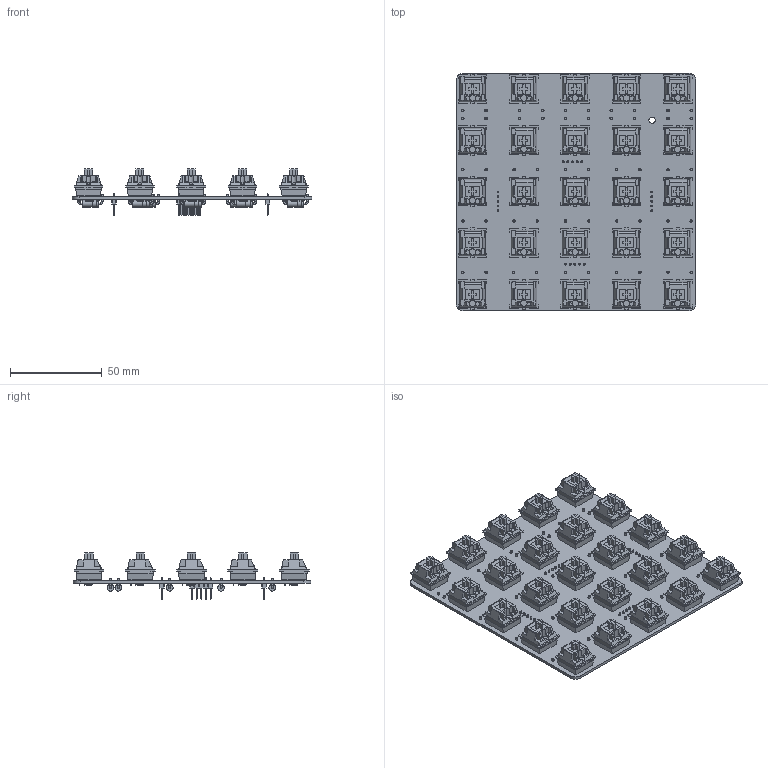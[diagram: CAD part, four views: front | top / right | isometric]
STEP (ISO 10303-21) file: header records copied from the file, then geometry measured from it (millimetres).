
FILE_DESCRIPTION(('KiCad electronic assembly'),'2;1');
FILE_NAME('KeyboardBig.step','2026-03-10T08:49:21',('Pcbnew'),('Kicad'), 'Open CASCADE STEP processor 7.9','KiCad to STEP converter','Unknown' );
FILE_SCHEMA(('AUTOMOTIVE_DESIGN { 1 0 10303 214 1 1 1 1 }'));
Length unit declared in the file: millimetre
Products named in the file (7): KeyboardBig 1; switch; Component1; Component2; D_5W_P12.70mm_Horizontal; PinHeader_1x05_P2.54mm_Vertical; KeyboardBig_PCB
Assembly tree (57 placements, depth 3):
  KeyboardBig 1
    switch  x25
      Component1
      Component2
    D_5W_P12.70mm_Horizontal  x25
    PinHeader_1x05_P2.54mm_Vertical  x4
    KeyboardBig_PCB
Bounding box: 130.81 x 129.54 x 25.15 mm (x, y, z)
Volume: 71439.3 mm3; surface area: 83575.8 mm2
Topology: 230 solids, 230 shells, 4302 faces, 10371 edges, 6719 vertices
Faces by surface type: plane 3277, cylinder 850, cone 75, sphere 50, torus 50
Full cylindrical faces by diameter (mm): 1 x20, 1.1 x100, 1.4 x50, 1.5 x50, 1.6 x50, 1.75 x50, 3.5 x1, 3.7 x50, 3.72 x25, 3.85 x25, 4 x25
Entity records: 17065 total; most frequent: DIRECTION 2766, CARTESIAN_POINT 2622, ORIENTED_EDGE 2502, EDGE_CURVE 1251, AXIS2_PLACEMENT_3D 991, FACE_BOUND 882, EDGE_LOOP 882, VERTEX_POINT 815
